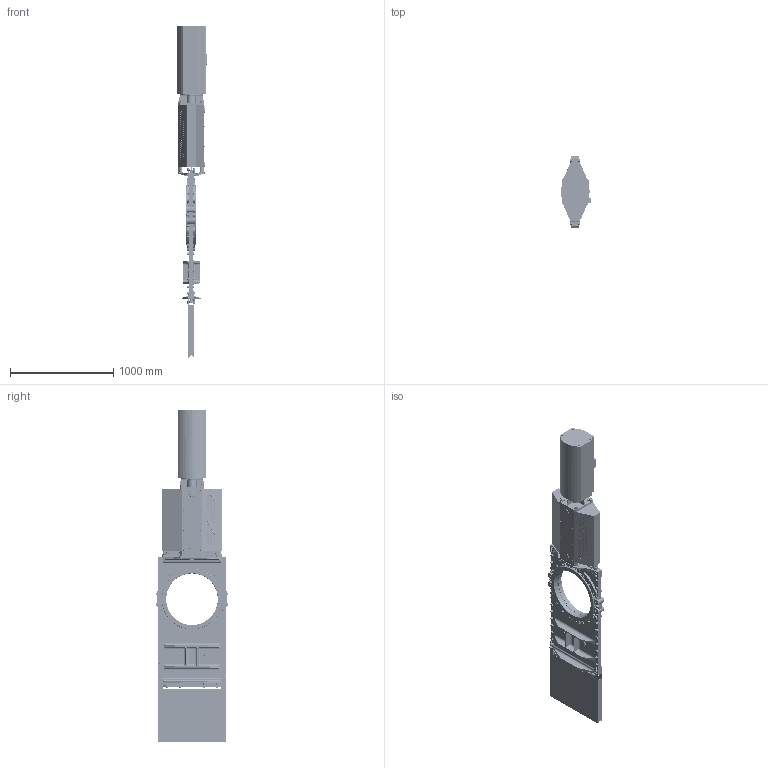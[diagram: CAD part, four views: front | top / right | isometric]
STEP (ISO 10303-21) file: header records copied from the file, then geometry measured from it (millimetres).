
FILE_DESCRIPTION(('STEP AP203'),'1');
FILE_NAME('F:/3D-block färdiga för export/HL/HL-DN500-PN10-EC250-icad.stp','2017-04-11T14:03:44',(' '),(' '),'Spatial InterOp 3D',' ',' ');
FILE_SCHEMA(('CONFIG_CONTROL_DESIGN'));
Length unit declared in the file: millimetre
Products named in the file (3): 1; 2; 3
Bounding box: 296 x 692.3 x 3217.5 mm (x, y, z)
Volume: 66805767 mm3; surface area: 12760784.6 mm2
Topology: 3 solids, 106 shells, 7303 faces, 17878 edges, 11221 vertices
Faces by surface type: plane 2861, cylinder 2431, cone 1740, torus 207, sphere 52, bspline 12
Entity records: 226762 total; most frequent: CARTESIAN_POINT 51085, DIRECTION 38367, ORIENTED_EDGE 35572, EDGE_CURVE 17786, AXIS2_PLACEMENT_3D 15224, VERTEX_POINT 11221, EDGE_LOOP 8435, LINE 7919
